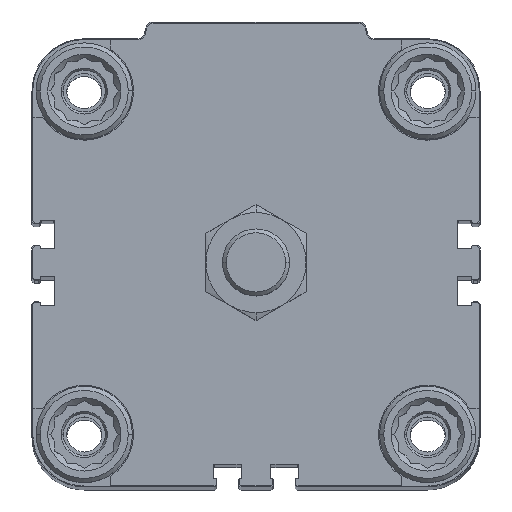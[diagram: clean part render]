
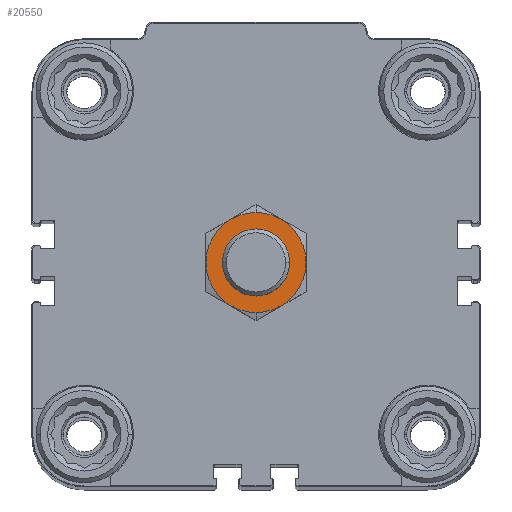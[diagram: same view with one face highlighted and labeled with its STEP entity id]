
A CAD part, top view. The second image highlights one B-rep face of the part: STEP entity #20550.
In plain terms, the highlighted planar face has unit normal (0, 0, 1).
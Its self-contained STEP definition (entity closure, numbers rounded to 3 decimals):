
#896 = VERTEX_POINT ( 'NONE', #22830 ) ;
#1108 = AXIS2_PLACEMENT_3D ( 'NONE', #1597, #12285, #8692 ) ;
#1236 = DIRECTION ( 'NONE',  ( 0., 0., -1. ) ) ;
#1597 = CARTESIAN_POINT ( 'NONE',  ( 0., 0., 22. ) ) ;
#2102 = CARTESIAN_POINT ( 'NONE',  ( 0., 0., 22. ) ) ;
#2417 = ORIENTED_EDGE ( 'NONE', *, *, #4604, .T. ) ;
#2996 = CARTESIAN_POINT ( 'NONE',  ( 0., 0., 22. ) ) ;
#4019 = CIRCLE ( 'NONE', #9595, 11.95 ) ;
#4094 = ORIENTED_EDGE ( 'NONE', *, *, #13344, .T. ) ;
#4604 = EDGE_CURVE ( 'NONE', #896, #21251, #10540, .T. ) ;
#5293 = CARTESIAN_POINT ( 'NONE',  ( 0., 11.95, 22. ) ) ;
#5797 = VERTEX_POINT ( 'NONE', #7522 ) ;
#7439 = DIRECTION ( 'NONE',  ( 0., 0., -1. ) ) ;
#7522 = CARTESIAN_POINT ( 'NONE',  ( 0., -11.95, 22. ) ) ;
#7928 = EDGE_CURVE ( 'NONE', #5797, #20691, #19624, .T. ) ;
#8692 = DIRECTION ( 'NONE',  ( 0., -1., 0. ) ) ;
#8973 = DIRECTION ( 'NONE',  ( 0., 0., -1. ) ) ;
#9016 = EDGE_LOOP ( 'NONE', ( #2417, #4094 ) ) ;
#9595 = AXIS2_PLACEMENT_3D ( 'NONE', #18098, #8973, #17992 ) ;
#10075 = DIRECTION ( 'NONE',  ( 0., -1., 0. ) ) ;
#10130 = AXIS2_PLACEMENT_3D ( 'NONE', #20239, #1236, #10075 ) ;
#10540 = CIRCLE ( 'NONE', #14955, 8. ) ;
#10966 = CARTESIAN_POINT ( 'NONE',  ( 0., -8., 22. ) ) ;
#11443 = EDGE_LOOP ( 'NONE', ( #15493, #13155 ) ) ;
#11799 = CIRCLE ( 'NONE', #19554, 8. ) ;
#12285 = DIRECTION ( 'NONE',  ( 0., 0., -1. ) ) ;
#13155 = ORIENTED_EDGE ( 'NONE', *, *, #15531, .F. ) ;
#13344 = EDGE_CURVE ( 'NONE', #21251, #896, #11799, .T. ) ;
#13430 = FACE_BOUND ( 'NONE', #9016, .T. ) ;
#14955 = AXIS2_PLACEMENT_3D ( 'NONE', #2996, #22470, #15538 ) ;
#15493 = ORIENTED_EDGE ( 'NONE', *, *, #7928, .F. ) ;
#15531 = EDGE_CURVE ( 'NONE', #20691, #5797, #4019, .T. ) ;
#15538 = DIRECTION ( 'NONE',  ( 0., -1., 0. ) ) ;
#16799 = FACE_OUTER_BOUND ( 'NONE', #11443, .T. ) ;
#16911 = PLANE ( 'NONE',  #10130 ) ;
#17777 = DIRECTION ( 'NONE',  ( 0., -1., 0. ) ) ;
#17992 = DIRECTION ( 'NONE',  ( 0., -1., 0. ) ) ;
#18098 = CARTESIAN_POINT ( 'NONE',  ( 0., 0., 22. ) ) ;
#19554 = AXIS2_PLACEMENT_3D ( 'NONE', #2102, #7439, #17777 ) ;
#19624 = CIRCLE ( 'NONE', #1108, 11.95 ) ;
#20239 = CARTESIAN_POINT ( 'NONE',  ( 0., 0., 22. ) ) ;
#20550 = ADVANCED_FACE ( 'NONE', ( #16799, #13430 ), #16911, .F. ) ;
#20691 = VERTEX_POINT ( 'NONE', #5293 ) ;
#21251 = VERTEX_POINT ( 'NONE', #10966 ) ;
#22470 = DIRECTION ( 'NONE',  ( 0., 0., -1. ) ) ;
#22830 = CARTESIAN_POINT ( 'NONE',  ( 0., 8., 22. ) ) ;
